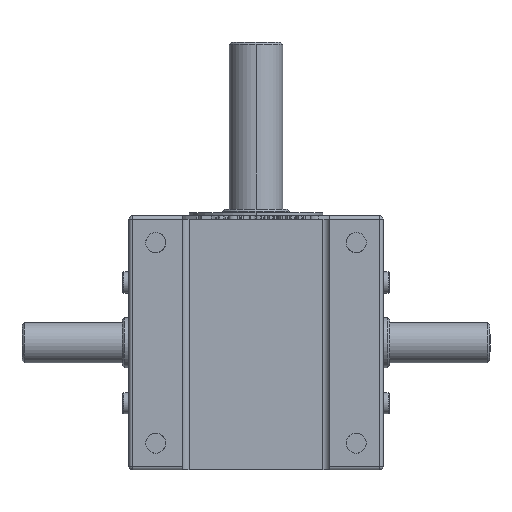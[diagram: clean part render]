
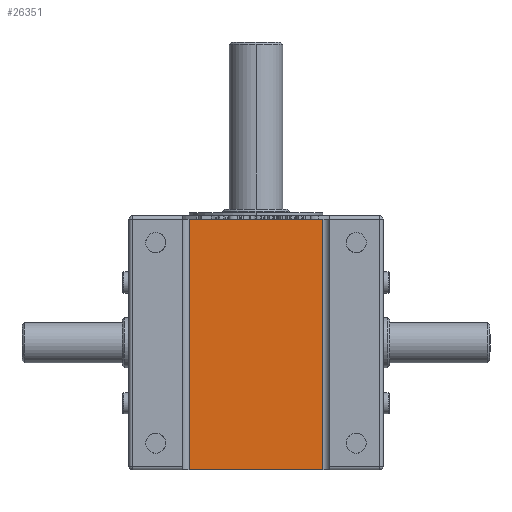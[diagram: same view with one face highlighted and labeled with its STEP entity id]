
A CAD part, front view. The second image highlights one B-rep face of the part: STEP entity #26351.
In plain terms, the highlighted planar face has unit normal (0, -1, 0).
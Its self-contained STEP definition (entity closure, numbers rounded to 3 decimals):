
#1439 = VERTEX_POINT ( 'NONE', #5362 ) ;
#3254 = CARTESIAN_POINT ( 'NONE',  ( -22., -29., -38. ) ) ;
#3392 = DIRECTION ( 'NONE',  ( 0., 1., 0. ) ) ;
#5362 = CARTESIAN_POINT ( 'NONE',  ( 20., -29., 37. ) ) ;
#10532 = ORIENTED_EDGE ( 'NONE', *, *, #17019, .F. ) ;
#11250 = CARTESIAN_POINT ( 'NONE',  ( -20., -29., -38. ) ) ;
#11945 = CARTESIAN_POINT ( 'NONE',  ( -22., -29., 37. ) ) ;
#12659 = VECTOR ( 'NONE', #18381, 1000. ) ;
#13990 = CARTESIAN_POINT ( 'NONE',  ( -20., -29., -38. ) ) ;
#14561 = EDGE_LOOP ( 'NONE', ( #39628, #44716, #30859, #10532 ) ) ;
#16623 = CARTESIAN_POINT ( 'NONE',  ( 20., -29., -38. ) ) ;
#17019 = EDGE_CURVE ( 'NONE', #22131, #1439, #22146, .T. ) ;
#17299 = VERTEX_POINT ( 'NONE', #19368 ) ;
#18381 = DIRECTION ( 'NONE',  ( 0., 0., 1. ) ) ;
#18749 = DIRECTION ( 'NONE',  ( 1., 0., 0. ) ) ;
#19368 = CARTESIAN_POINT ( 'NONE',  ( 20., -29., -38. ) ) ;
#19920 = VECTOR ( 'NONE', #25752, 1000. ) ;
#20531 = AXIS2_PLACEMENT_3D ( 'NONE', #3254, #3392, #27694 ) ;
#20687 = PLANE ( 'NONE',  #20531 ) ;
#21328 = EDGE_CURVE ( 'NONE', #24825, #22131, #21922, .T. ) ;
#21922 = LINE ( 'NONE', #11250, #12659 ) ;
#22131 = VERTEX_POINT ( 'NONE', #27104 ) ;
#22146 = LINE ( 'NONE', #11945, #19920 ) ;
#22958 = LINE ( 'NONE', #16623, #32232 ) ;
#24825 = VERTEX_POINT ( 'NONE', #13990 ) ;
#25752 = DIRECTION ( 'NONE',  ( 1., 0., 0. ) ) ;
#26208 = EDGE_CURVE ( 'NONE', #17299, #1439, #22958, .T. ) ;
#26351 = ADVANCED_FACE ( 'NONE', ( #39270 ), #20687, .F. ) ;
#27104 = CARTESIAN_POINT ( 'NONE',  ( -20., -29., 37. ) ) ;
#27694 = DIRECTION ( 'NONE',  ( -1., 0., 0. ) ) ;
#29274 = CARTESIAN_POINT ( 'NONE',  ( 38., -29., -38. ) ) ;
#30859 = ORIENTED_EDGE ( 'NONE', *, *, #26208, .T. ) ;
#32232 = VECTOR ( 'NONE', #37426, 1000. ) ;
#35587 = VECTOR ( 'NONE', #18749, 1000. ) ;
#36674 = LINE ( 'NONE', #29274, #35587 ) ;
#37426 = DIRECTION ( 'NONE',  ( 0., 0., 1. ) ) ;
#38371 = EDGE_CURVE ( 'NONE', #24825, #17299, #36674, .T. ) ;
#39270 = FACE_OUTER_BOUND ( 'NONE', #14561, .T. ) ;
#39628 = ORIENTED_EDGE ( 'NONE', *, *, #21328, .F. ) ;
#44716 = ORIENTED_EDGE ( 'NONE', *, *, #38371, .T. ) ;
